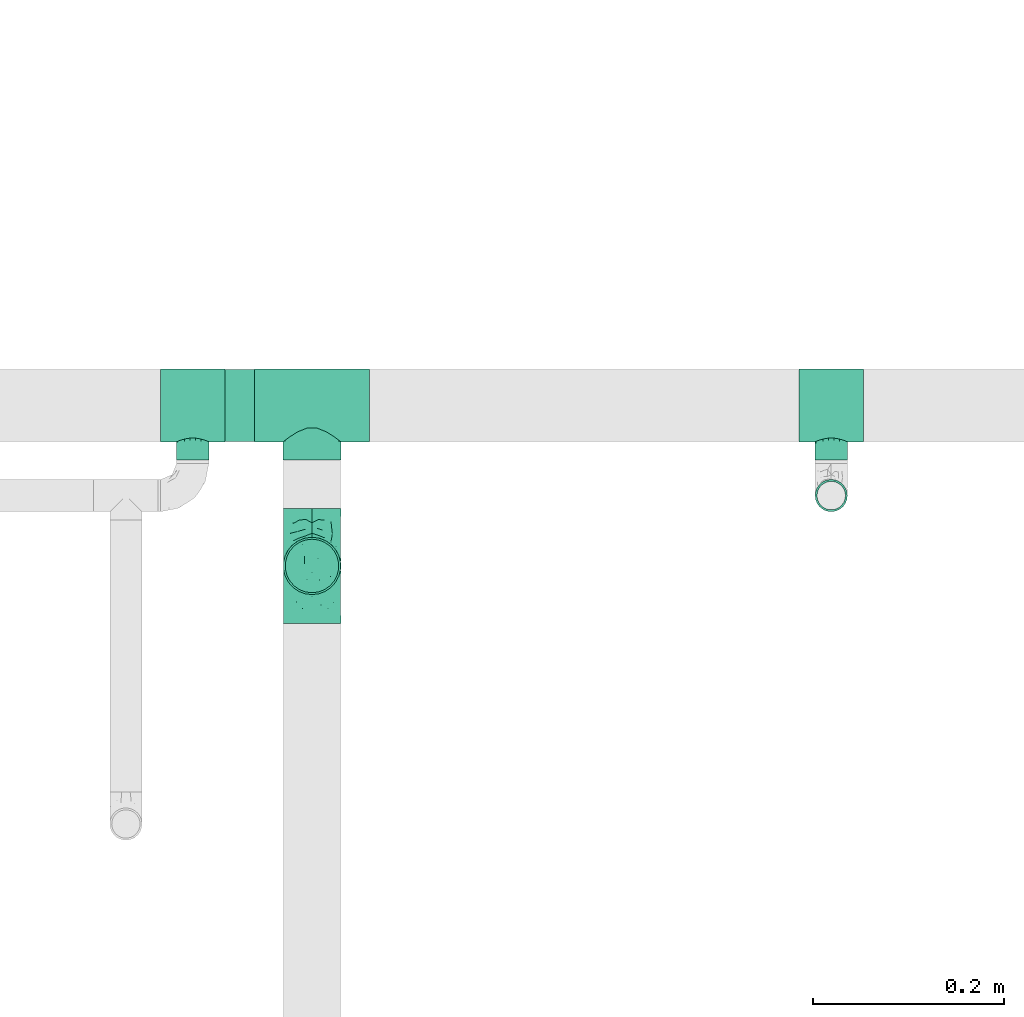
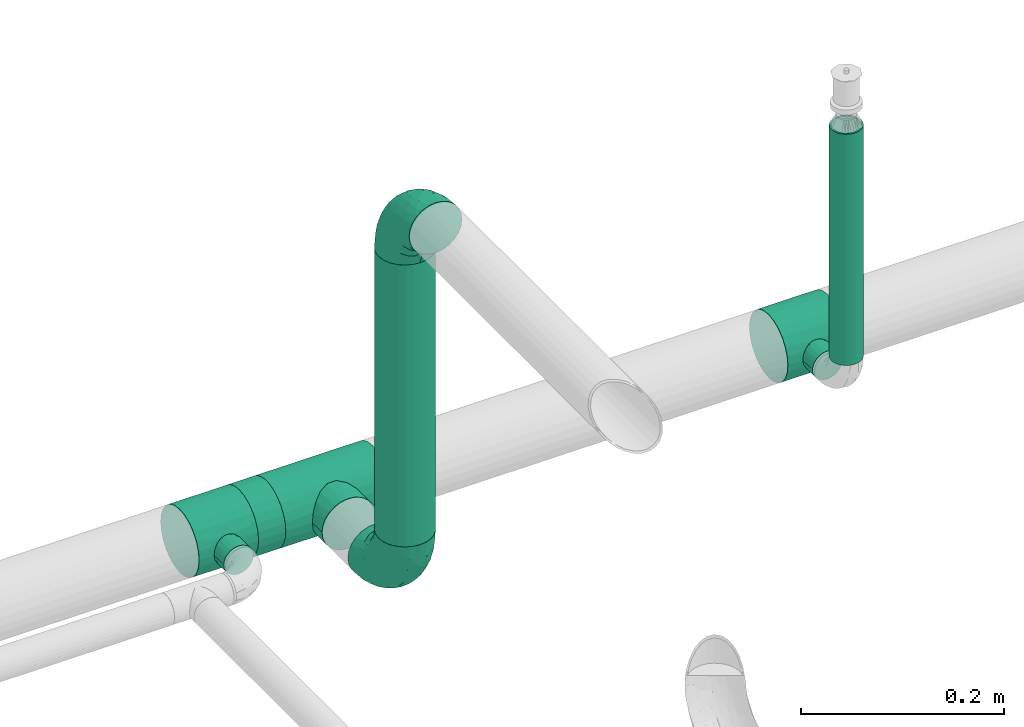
# One storey, part 17 of 157: 5 flow fittings, 3 flow segments.
"""IFC2X3 building model written with IfcOpenShell, lengths in millimetres."""

from ifc_helpers import new_model, entity, si_unit, converted_unit, derived_unit, direction, frame, origin_with_axes, origin_2d_with_axis, place, context, subcontext, project, spatial, hollow_circle, extrude, open_shell, surface_model, source, transform, mapped, type_object, element, save


model = new_model("IFC2X3")

# Units and contexts
model_context = context("Model", 3, precision=0.01, world=frame((0.0, 4.29681676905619e-09, 0.0)), true_north=direction((4.01073788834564e-13, 1.0)))
plan_context = context("Plan", 3, precision=0.01, world=frame((0.0, 4.29681676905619e-09, 0.0)), true_north=direction((4.01073788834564e-13, 1.0)))
body_context = subcontext(model_context, "Body", "Model", "MODEL_VIEW")
ifc_project = project(units=[converted_unit("PLANEANGLEUNIT", "DEGREE", entity("IfcPositiveLengthMeasure", 0.0174532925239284), si_unit("PLANEANGLEUNIT", "RADIAN"), dimensions=[0, 0, 0, 0, 0, 0, 0]), si_unit("AREAUNIT", "SQUARE_METRE"), si_unit("LENGTHUNIT", "METRE", prefix="MILLI"), si_unit("MASSUNIT", "GRAM", prefix="KILO"), si_unit("POWERUNIT", "WATT"), si_unit("PRESSUREUNIT", "PASCAL"), si_unit("FORCEUNIT", "NEWTON", prefix="KILO"), si_unit("ELECTRICCURRENTUNIT", "AMPERE"), si_unit("THERMODYNAMICTEMPERATUREUNIT", "DEGREE_CELSIUS"), si_unit("TIMEUNIT", "SECOND"), si_unit("VOLUMEUNIT", "CUBIC_METRE"), derived_unit("LINEARVELOCITYUNIT", [(si_unit("LENGTHUNIT", "METRE"), 1), (si_unit("TIMEUNIT", "SECOND"), -1)]), derived_unit("VOLUMETRICFLOWRATEUNIT", [(si_unit("VOLUMEUNIT", "CUBIC_METRE"), 1), (si_unit("TIMEUNIT", "SECOND"), -1)]), derived_unit("THERMALTRANSMITTANCEUNIT", [(si_unit("POWERUNIT", "WATT"), 1), (si_unit("THERMODYNAMICTEMPERATUREUNIT", "KELVIN"), -1), (si_unit("AREAUNIT", "SQUARE_METRE"), -1)])], contexts=[model_context, plan_context])

# Site, building, storey
site_placement = place(None, frame((0.0, -4.29681676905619e-09, 0.0), z_axis=(0.0, 0.0, 1.0), x_axis=(1.0, 0.0, 0.0)))
site = spatial("IfcSite", under=ifc_project, at=site_placement, CompositionType="ELEMENT")
building_placement = place(site_placement, frame((0.0, 4.29681676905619e-09, 0.0), z_axis=(0.0, 0.0, 1.0), x_axis=(1.0, 0.0, 0.0)))
building = spatial("IfcBuilding", under=site, at=building_placement, Name="mc-building", CompositionType="ELEMENT")
storey_placement = place(building_placement, frame((0.0, 0.0, 204000.0), z_axis=(0.0, 0.0, 1.0), x_axis=(1.0, 0.0, 0.0)))
storey = spatial("IfcBuildingStorey", under=building, at=storey_placement, Name="Nivå D", CompositionType="ELEMENT", Elevation=204000.0)

# Flow fittings
pipe_fitting_type_1 = type_object("IfcPipeFittingType", Name="magi_pipe_fe_tee_centric_90_NOR", PredefinedType="JUNCTION")
shared_shape_1 = source(origin_with_axes(), body_context, "Body", "SurfaceModel", [
    surface_model("IfcShellBasedSurfaceModel", [(-33.8, 9.86101, -36.80177), (-33.8, 0.0, -38.1), (-33.8, 36.80177, -9.86101), (-33.8, 19.05, -32.99557), (-33.8, 32.99557, -19.05), (-33.8, 26.94077, -26.94077), (-33.8, -38.1, 0.0), (-33.8, -19.05, -32.99557), (-33.8, -26.94077, -26.94077), (-33.8, -9.86101, -36.80177), (-33.8, -32.99557, -19.05), (-33.8, -36.80177, -9.86101), (-33.8, 38.1, 0.0), (-33.8, 32.99557, 19.05), (-33.8, 36.80177, 9.86101), (-33.8, -36.80177, 9.86101), (-33.8, 19.05, 32.99557), (-33.8, 26.94077, 26.94077), (-33.8, 9.86101, 36.80177), (-33.8, 0.0, 38.1), (-33.8, -26.94077, 26.94077), (-33.8, -32.99557, 19.05), (-33.8, -9.86101, 36.80177), (-33.8, -19.05, 32.99557), (33.8, 0.0, -38.1), (33.8, 9.86101, -36.80177), (33.8, 19.05, -32.99557), (33.8, 26.94077, -26.94077), (33.8, 32.99557, -19.05), (33.8, 36.80177, -9.86101), (33.8, -38.1, 0.0), (33.8, -9.86101, -36.80177), (33.8, -26.94077, -26.94077), (33.8, -19.05, -32.99557), (33.8, -32.99557, -19.05), (33.8, -36.80177, -9.86101), (33.8, 36.80177, 9.86101), (33.8, 32.99557, 19.05), (33.8, 19.05, 32.99557), (33.8, 0.0, 38.1), (33.8, 26.94077, 26.94077), (33.8, 9.86101, 36.80177), (33.8, -26.94077, 26.94077), (33.8, -32.99557, 19.05), (33.8, -36.80177, 9.86101), (33.8, -19.05, 32.99557), (33.8, -9.86101, 36.80177), (33.8, 38.1, 0.0), (33.8, -37.45089, 4.9305), (15.86072, -37.65053, 5.83504), (16.9, -38.1, 0.0), (12.92726, -36.51183, 10.88559), (2.96752, -34.27545, 16.63742), (33.8, -34.89867, 14.4555), (8.48894, -35.18611, 14.61328), (-8.4904, -35.18646, 14.61243), (-33.8, -34.89867, 14.4555), (-15.8612, -37.65073, 5.83372), (-33.8, -37.45089, 4.9305), (-16.9, -38.1, 0.0), (-12.9317, -36.51341, 10.88031), (-2.97221, -34.27585, 16.63658), (-33.8, -37.45089, -4.9305), (-15.8612, -37.65073, -5.83372), (15.86072, -37.65053, -5.83504), (33.8, -37.45089, -4.9305), (-12.9317, -36.51341, -10.88031), (-33.8, -34.89867, -14.4555), (-8.4904, -35.18646, -14.61243), (2.96752, -34.27545, -16.63742), (8.48894, -35.18611, -14.61328), (33.8, -34.89867, -14.4555), (12.92726, -36.51183, -10.88559), (-2.97221, -34.27585, -16.63658), (4.37404, -57.15, -16.32415), (-16.9, -57.15, 0.0), (0.0, -57.15, -16.9), (14.63583, -57.15, -8.45), (8.45, -57.15, -14.63583), (16.32415, -57.15, -4.37404), (11.9501, -57.15, -11.9501), (-11.9501, -57.15, -11.9501), (-8.45, -57.15, -14.63583), (-4.37404, -57.15, -16.32415), (-14.63583, -57.15, -8.45), (-16.32415, -57.15, -4.37404), (16.9, -57.15, 0.0), (8.45, -57.15, 14.63583), (16.32415, -57.15, 4.37404), (14.63583, -57.15, 8.45), (-8.45, -57.15, 14.63583), (11.9501, -57.15, 11.9501), (4.37404, -57.15, 16.32415), (-16.32415, -57.15, 4.37404), (-11.9501, -57.15, 11.9501), (-14.63583, -57.15, 8.45), (0.0, -57.15, 16.9), (-4.37404, -57.15, 16.32415), (-16.3806, -37.87537, 2.91686), (-5.7313, -34.73116, 15.62451), (-0.00235, -34.27565, 16.637), (5.72823, -34.73078, 15.62535), (16.38036, -37.87526, 2.91752), (16.38036, -37.87526, -2.91752), (5.72823, -34.73078, -15.62535), (-0.00235, -34.27565, -16.637), (-5.7313, -34.73116, -15.62451), (-16.3806, -37.87537, -2.91686)], [open_shell([[[0, 1, 2]], [[3, 0, 2]], [[2, 4, 5]], [[3, 2, 5]], [[6, 2, 1]], [[7, 8, 9]], [[8, 1, 9]], [[10, 11, 8]], [[6, 8, 11]], [[8, 6, 1]], [[6, 12, 2]], [[13, 14, 12]], [[15, 13, 6]], [[16, 13, 15]], [[17, 13, 16]], [[18, 16, 19]], [[20, 19, 21]], [[16, 15, 21]], [[22, 19, 23]], [[20, 23, 19]], [[21, 19, 16]], [[12, 6, 13]], [[24, 25, 26]], [[24, 26, 27]], [[27, 28, 29]], [[24, 27, 30]], [[30, 27, 29]], [[31, 32, 33]], [[31, 24, 32]], [[34, 30, 35]], [[30, 34, 32]], [[24, 30, 32]], [[29, 36, 30]], [[36, 37, 30]], [[30, 37, 38]], [[38, 39, 30]], [[38, 37, 40]], [[39, 38, 41]], [[30, 42, 43]], [[44, 30, 43]], [[45, 39, 46]], [[45, 42, 30]], [[30, 39, 45]], [[36, 29, 47]], [[48, 44, 49]], [[50, 30, 48]], [[44, 51, 49]], [[43, 42, 52]], [[50, 48, 49]], [[44, 53, 51]], [[52, 54, 43]], [[42, 20, 52]], [[54, 53, 43]], [[55, 21, 56]], [[57, 58, 59]], [[6, 59, 58]], [[57, 60, 15]], [[55, 61, 21]], [[51, 53, 54]], [[15, 60, 56]], [[21, 61, 20]], [[56, 60, 55]], [[61, 52, 20]], [[57, 15, 58]], [[42, 23, 20]], [[19, 46, 39]], [[22, 45, 46]], [[18, 39, 41]], [[37, 36, 14]], [[17, 38, 40]], [[13, 40, 37]], [[41, 38, 16]], [[12, 36, 47]], [[23, 45, 22]], [[22, 46, 19]], [[18, 19, 39]], [[41, 16, 18]], [[16, 38, 17]], [[13, 17, 40]], [[14, 13, 37]], [[36, 12, 14]], [[45, 23, 42]], [[12, 47, 29]], [[29, 28, 2]], [[59, 62, 63]], [[27, 4, 28]], [[9, 24, 31]], [[0, 26, 25]], [[64, 35, 65]], [[24, 1, 25]], [[31, 33, 7]], [[27, 26, 5]], [[66, 67, 68]], [[4, 2, 28]], [[12, 29, 2]], [[27, 5, 4]], [[3, 26, 0]], [[26, 3, 5]], [[0, 25, 1]], [[9, 1, 24]], [[31, 7, 9]], [[33, 8, 7]], [[32, 34, 69]], [[70, 34, 71]], [[70, 69, 34]], [[35, 72, 71]], [[32, 69, 8]], [[30, 50, 65]], [[64, 72, 35]], [[64, 65, 50]], [[72, 70, 71]], [[73, 68, 10]], [[10, 8, 73]], [[68, 67, 10]], [[73, 8, 69]], [[66, 63, 11]], [[63, 62, 11]], [[62, 59, 6]], [[11, 67, 66]], [[32, 8, 33]], [[74, 75, 76]], [[77, 74, 78]], [[77, 79, 74]], [[77, 78, 80]], [[75, 74, 79]], [[76, 81, 82]], [[82, 83, 76]], [[84, 75, 85]], [[81, 76, 84]], [[75, 84, 76]], [[79, 86, 75]], [[87, 86, 88]], [[87, 88, 89]], [[90, 75, 87]], [[87, 89, 91]], [[90, 87, 92]], [[93, 94, 95]], [[94, 93, 90]], [[90, 96, 97]], [[93, 75, 90]], [[92, 96, 90]], [[87, 75, 86]], [[93, 98, 75]], [[60, 95, 94]], [[93, 95, 57]], [[94, 90, 55]], [[98, 59, 75]], [[57, 95, 60]], [[97, 61, 99]], [[55, 60, 94]], [[96, 52, 100]], [[87, 101, 92]], [[99, 90, 97]], [[99, 55, 90]], [[93, 57, 98]], [[92, 52, 96]], [[49, 89, 88]], [[102, 86, 50]], [[102, 49, 88]], [[91, 89, 51]], [[96, 61, 97]], [[101, 52, 92]], [[87, 54, 101]], [[87, 91, 54]], [[54, 91, 51]], [[51, 89, 49]], [[86, 102, 88]], [[100, 61, 96]], [[79, 103, 86]], [[72, 77, 80]], [[79, 77, 64]], [[80, 78, 70]], [[103, 50, 86]], [[64, 77, 72]], [[74, 69, 104]], [[70, 72, 80]], [[76, 73, 105]], [[82, 106, 83]], [[107, 75, 59]], [[104, 78, 74]], [[104, 70, 78]], [[68, 82, 81]], [[79, 64, 103]], [[63, 84, 85]], [[107, 63, 85]], [[84, 66, 81]], [[76, 69, 74]], [[83, 106, 73]], [[73, 76, 83]], [[68, 106, 82]], [[68, 81, 66]], [[66, 84, 63]], [[75, 107, 85]], [[105, 69, 76]]])]),
])
for number, where, z_axis, x_axis, name in (
    (1, (524570.18066, 414039.35389, 2690.0), (0.0, 0.0, -1.0), (-1.0, 0.0, 0.0), "magi_pipe_fe_tee_centric_90_NOR"),
    (2, (525240.35, 414039.35389, 2690.0), (0.0, 0.0, -1.0), (-1.0, 0.0, 0.0), "magi_pipe_fe_tee_centric_90_NOR"),
):
    element("IfcFlowFitting", number, at=place(storey_placement, frame(where, z_axis=z_axis, x_axis=x_axis)), inside=storey, type_object=pipe_fitting_type_1, Name=name, context=body_context, shape_type="MappedRepresentation", body=[
        mapped(shared_shape_1, transform((0.0, 0.0, 0.0), scale=1.0)),
    ])
pipe_fitting_type_2 = type_object("IfcPipeFittingType", Name="magi_pipe_fe_elbow_short_001", PredefinedType="BEND")
shared_shape_2 = source(origin_with_axes(), body_context, "Body", "SurfaceModel", [
    surface_model("IfcShellBasedSurfaceModel", [(-60.4, 15.1, -26.15397), (-60.4, 7.81634, -29.17096), (-60.4, 0.0, -30.2), (-60.4, -21.35462, -21.35462), (-60.4, 26.15397, -15.1), (-60.4, 21.35462, -21.35462), (-60.4, 29.17096, -7.81634), (-60.4, -15.1, -26.15397), (-60.4, -7.81634, -29.17096), (-60.4, -26.15397, -15.1), (-60.4, -29.17096, -7.81634), (-60.4, -30.2, 0.0), (-60.4, -29.17096, 7.81634), (-60.4, 29.17096, 7.81634), (-60.4, -21.35462, 21.35462), (-60.4, 26.15397, 15.1), (-60.4, 21.35462, 21.35462), (-60.4, 7.81634, 29.17096), (-60.4, 15.1, 26.15397), (-60.4, -26.15397, 15.1), (-60.4, -7.81634, 29.17096), (-60.4, 0.0, 30.2), (-60.4, -15.1, 26.15397), (-60.4, 30.2, 0.0), (0.0, 60.4, -30.2), (-7.81634, 60.4, -29.17096), (-15.1, 60.4, -26.15397), (-26.15397, 60.4, -15.1), (-29.17096, 60.4, -7.81634), (-21.35462, 60.4, -21.35462), (29.17096, 60.4, -7.81634), (7.81634, 60.4, -29.17096), (21.35462, 60.4, -21.35462), (15.1, 60.4, -26.15397), (26.15397, 60.4, -15.1), (29.17096, 60.4, 7.81634), (30.2, 60.4, 0.0), (-29.17096, 60.4, 7.81634), (21.35462, 60.4, 21.35462), (-21.35462, 60.4, 21.35462), (-26.15397, 60.4, 15.1), (-15.1, 60.4, 26.15397), (-7.81634, 60.4, 29.17096), (26.15397, 60.4, 15.1), (15.1, 60.4, 26.15397), (0.0, 60.4, 30.2), (7.81634, 60.4, 29.17096), (-30.2, 60.4, 0.0), (-40.79975, -26.48639, 9.49143), (-44.2927, -23.46036, 16.95222), (-32.40306, -25.76572, 0.0), (-45.54716, -27.84754, 0.0), (-7.73382, -10.42985, 11.64553), (-2.102, -8.06735, 6.35117), (1.74449, -1.74448, 12.51332), (-46.13593, -4.00068, 29.68351), (-42.2898, 4.62925, 30.14853), (10.31662, 7.37496, 11.34434), (18.44156, 24.57514, 15.02148), (7.07276, 10.95732, 19.27498), (-30.06693, -0.27102, 29.27145), (-44.17726, -11.39441, 27.16031), (-23.4551, -7.13383, 25.24246), (-38.74025, -17.25266, 22.43475), (-27.059, -23.14697, 6.2131), (-19.77486, -19.33133, 0.0), (-10.95732, -7.07276, 19.27498), (-5.39458, 5.39458, 24.69106), (-29.52069, 48.20084, 13.12597), (-25.22813, 47.01796, 19.8404), (-11.27311, 52.093, 28.2877), (-4.13904, 45.17494, 30.12582), (-46.55352, 11.8443, 28.52822), (-7.88305, 20.22717, 29.65331), (-15.00576, 5.54025, 28.20072), (-3.0852, 16.31623, 27.75343), (-52.24998, 18.2886, 24.60768), (-10.49591, 29.69865, 30.14582), (-22.36958, 22.36958, 29.4662), (-17.98262, 13.19715, 30.04443), (-47.74519, 32.16745, 6.63994), (-48.21585, 29.51581, 13.12396), (-37.49729, 37.49729, 11.28901), (-47.20967, 25.1754, 19.81929), (17.25266, 38.74025, 22.43475), (-31.32046, 40.03273, 17.09289), (11.39441, 44.17725, 27.16031), (23.46036, 44.2927, 16.95222), (26.48639, 40.79975, 9.49143), (-7.14666, -12.89694, 0.0), (-14.66463, -16.61192, 7.82462), (4.00068, 46.13593, 29.68351), (-33.18602, 12.93608, 29.65955), (-29.63414, 7.40029, 30.18711), (19.33133, 19.77486, 0.0), (23.14697, 27.059, 6.2131), (16.61192, 14.66463, 7.82462), (27.84754, 45.54716, 0.0), (-32.10611, 20.49149, 27.93323), (-24.57514, -18.44156, 15.02148), (-21.89487, 39.03366, 25.38224), (-18.45005, 50.6405, 24.73297), (-31.78933, 48.71949, 6.47886), (-37.84917, 39.61073, 5.315), (13.91334, 24.32737, 20.46816), (7.13383, 23.4551, 25.24246), (-34.24603, 45.3, 0.0), (-27.95749, 31.89166, 24.81537), (-41.58677, 20.50028, 25.43151), (-0.46157, 0.46157, 17.84239), (-17.23338, 31.26213, 29.03145), (-24.05994, 29.23812, 27.47858), (-13.06094, 40.92174, 28.76128), (-31.83392, 33.72702, 21.39203), (-38.78737, 32.45032, 16.84022), (0.27102, 30.06693, 29.27145), (-24.21469, -13.23741, 21.05734), (8.23548, 2.19333, 6.02161), (25.76572, 32.40306, 0.0), (12.89694, 7.14666, 0.0), (-45.3, 34.24603, 0.0), (2.87514, -2.87514, 0.0), (-44.53432, 26.00869, -20.11577), (-48.18822, 29.5248, -13.12766), (-24.67192, -7.62159, -25.33714), (-26.22398, -0.37671, -28.72374), (-12.13397, -0.50536, -24.74577), (-47.80891, 3.81859, -30.10171), (-44.05719, -27.03585, -9.84546), (-37.94552, -22.39569, -16.35738), (-28.81663, -22.64668, -10.132), (-43.93799, 12.32789, -28.63778), (-33.27, 7.1392, -30.19348), (-26.0087, 44.53432, -20.11577), (-48.89164, 31.68872, -6.60822), (-18.95522, 47.41145, -24.9828), (-12.32789, 43.93799, -28.63778), (-38.42778, 38.42778, -7.21049), (18.04263, 43.69152, -22.80146), (10.42233, 38.24532, -26.85918), (11.90576, 51.00473, -27.48545), (-5.88381, -10.62327, -7.95335), (-5.9694, -7.83116, -13.76182), (3.24899, -2.56331, -7.96861), (-17.62229, 16.32998, -30.18286), (-28.62959, 17.86952, -29.30113), (-47.41145, 18.95522, -24.98279), (-50.84455, -24.04089, -17.54629), (-29.38053, 34.30665, -22.74674), (-27.91099, 27.91099, -26.51666), (-36.91219, 25.51094, -23.99233), (2.63361, -0.55507, -12.94367), (-43.69152, -18.04263, -22.80146), (22.39569, 37.94552, -16.35738), (27.03585, 44.05719, -9.84546), (22.64668, 28.81663, -10.132), (-51.00473, -11.90576, -27.48545), (3.80785, 44.49426, -29.64782), (-19.0921, -14.69952, -16.47487), (-22.5489, -12.31934, -21.1263), (-10.94772, -7.46239, -18.88204), (-32.95885, -13.78948, -23.71249), (-38.24532, -10.42233, -26.85918), (-44.49427, -3.80785, -29.64782), (-22.6301, 37.15314, -25.58239), (-31.68872, 48.89164, -6.60822), (-3.8186, 47.80891, -30.10171), (-10.66133, 10.66133, -28.51691), (0.37671, 26.22398, -28.72374), (1.27136, 14.18619, -25.18541), (-29.5248, 48.18821, -13.12766), (-36.27113, 36.27113, -14.88553), (24.04089, 50.84455, -17.54629), (17.50188, 24.2636, -16.21902), (9.73525, 11.44907, -16.75087), (12.31934, 22.5489, -21.1263), (6.24176, 25.78208, -26.38266), (-7.1392, 33.27, -30.19348), (-36.7166, 19.4356, -27.21946), (-18.00754, 29.38864, -29.15505), (-0.28629, 0.28629, -17.49884), (-13.98848, -16.88492, -5.19509), (15.48569, 15.00432, -11.24742), (16.88492, 13.98848, -5.19509), (3.55782, 9.20508, -21.18402), (-15.00432, -15.48569, -11.24742)], [open_shell([[[0, 1, 2]], [[0, 2, 3]], [[4, 0, 3]], [[5, 0, 4]], [[6, 4, 3]], [[7, 3, 8]], [[3, 2, 8]], [[9, 10, 3]], [[3, 10, 6]], [[11, 12, 10]], [[13, 6, 10]], [[13, 10, 14]], [[15, 13, 16]], [[17, 18, 16]], [[13, 17, 16]], [[17, 13, 14]], [[19, 14, 12]], [[12, 14, 10]], [[20, 21, 22]], [[17, 14, 22]], [[17, 22, 21]], [[13, 23, 6]], [[24, 25, 26]], [[24, 26, 27]], [[27, 28, 24]], [[27, 26, 29]], [[24, 28, 30]], [[31, 32, 33]], [[31, 24, 32]], [[32, 30, 34]], [[24, 30, 32]], [[30, 35, 36]], [[30, 28, 37]], [[38, 30, 37]], [[39, 37, 40]], [[39, 41, 42]], [[39, 42, 37]], [[38, 37, 42]], [[35, 38, 43]], [[30, 38, 35]], [[44, 45, 46]], [[44, 38, 42]], [[45, 44, 42]], [[28, 47, 37]], [[48, 49, 19]], [[50, 48, 51]], [[52, 53, 54]], [[12, 48, 19]], [[12, 51, 48]], [[21, 55, 56]], [[19, 49, 14]], [[57, 58, 59]], [[60, 61, 62]], [[63, 22, 14]], [[63, 61, 22]], [[64, 50, 65]], [[62, 66, 67]], [[40, 68, 69]], [[42, 70, 71]], [[17, 72, 18]], [[73, 74, 75]], [[18, 76, 16]], [[20, 55, 21]], [[77, 78, 79]], [[80, 81, 82]], [[15, 83, 81]], [[84, 38, 44]], [[23, 13, 80]], [[13, 15, 81]], [[68, 85, 69]], [[83, 15, 16]], [[21, 56, 17]], [[44, 86, 84]], [[16, 76, 83]], [[87, 58, 88]], [[40, 37, 68]], [[89, 90, 65]], [[45, 91, 46]], [[65, 90, 64]], [[45, 42, 71]], [[92, 93, 79]], [[88, 35, 43]], [[43, 38, 87]], [[87, 88, 43]], [[94, 95, 96]], [[88, 97, 35]], [[98, 72, 92]], [[49, 99, 63]], [[69, 100, 101]], [[82, 102, 103]], [[104, 105, 59]], [[106, 102, 47]], [[98, 107, 108]], [[102, 82, 68]], [[86, 44, 46]], [[69, 39, 40]], [[109, 54, 57]], [[110, 100, 111]], [[22, 61, 20]], [[101, 41, 39]], [[70, 42, 41]], [[112, 77, 71]], [[84, 86, 105]], [[96, 95, 58]], [[100, 69, 113]], [[72, 17, 56]], [[108, 113, 83]], [[81, 114, 82]], [[112, 110, 77]], [[91, 71, 115]], [[62, 61, 63]], [[55, 61, 60]], [[116, 99, 66]], [[74, 62, 67]], [[91, 86, 46]], [[105, 86, 115]], [[75, 105, 115]], [[109, 67, 66]], [[59, 105, 67]], [[48, 64, 99]], [[99, 49, 48]], [[63, 14, 49]], [[38, 84, 87]], [[58, 87, 84]], [[92, 72, 56]], [[76, 72, 108]], [[102, 68, 37]], [[82, 114, 85]], [[98, 111, 107]], [[112, 70, 101]], [[114, 83, 113]], [[82, 103, 80]], [[92, 79, 78]], [[115, 71, 77]], [[74, 79, 60]], [[77, 79, 73]], [[71, 91, 45]], [[86, 91, 115]], [[61, 55, 20]], [[56, 55, 60]], [[57, 54, 117]], [[104, 59, 58]], [[116, 66, 62]], [[52, 99, 90]], [[12, 11, 51]], [[97, 88, 118]], [[97, 36, 35]], [[53, 90, 89]], [[90, 53, 52]], [[94, 96, 119]], [[88, 95, 118]], [[117, 54, 53]], [[92, 56, 93]], [[98, 92, 78]], [[111, 98, 78]], [[72, 98, 108]], [[110, 111, 78]], [[107, 111, 100]], [[47, 102, 37]], [[102, 106, 103]], [[106, 120, 103]], [[103, 120, 80]], [[23, 80, 120]], [[13, 81, 80]], [[56, 60, 93]], [[60, 79, 93]], [[117, 121, 119]], [[121, 117, 53]], [[53, 89, 121]], [[119, 96, 117]], [[117, 96, 57]], [[77, 110, 78]], [[100, 110, 112]], [[83, 114, 81]], [[85, 114, 113]], [[69, 85, 113]], [[82, 85, 68]], [[109, 52, 54]], [[99, 52, 66]], [[69, 101, 39]], [[112, 101, 100]], [[100, 113, 107]], [[108, 107, 113]], [[62, 74, 60]], [[75, 74, 67]], [[105, 75, 67]], [[73, 75, 115]], [[77, 73, 115]], [[74, 73, 79]], [[99, 64, 90]], [[50, 64, 48]], [[118, 95, 94]], [[58, 95, 88]], [[58, 57, 96]], [[109, 57, 59]], [[72, 76, 18]], [[83, 76, 108]], [[101, 70, 41]], [[71, 70, 112]], [[58, 84, 104]], [[105, 104, 84]], [[67, 109, 59]], [[52, 109, 66]], [[62, 63, 116]], [[99, 116, 63]], [[122, 4, 123]], [[124, 125, 126]], [[2, 1, 127]], [[128, 129, 130]], [[127, 131, 132]], [[27, 29, 133]], [[120, 134, 23]], [[135, 26, 136]], [[123, 134, 137]], [[138, 139, 140]], [[122, 5, 4]], [[141, 142, 143]], [[144, 132, 145]], [[131, 0, 146]], [[128, 9, 147]], [[148, 149, 150]], [[128, 51, 10]], [[142, 151, 143]], [[152, 3, 7]], [[153, 154, 155]], [[156, 152, 7]], [[31, 157, 24]], [[158, 159, 160]], [[147, 9, 3]], [[129, 152, 161]], [[156, 7, 8]], [[162, 163, 125]], [[154, 34, 30]], [[120, 106, 137]], [[149, 148, 164]], [[47, 28, 165]], [[163, 8, 2]], [[4, 6, 123]], [[25, 166, 136]], [[167, 168, 169]], [[170, 133, 171]], [[25, 24, 166]], [[33, 32, 138]], [[157, 31, 140]], [[28, 27, 170]], [[32, 34, 172]], [[26, 135, 29]], [[132, 131, 145]], [[31, 33, 140]], [[173, 174, 175]], [[169, 168, 176]], [[25, 136, 26]], [[175, 138, 173]], [[168, 177, 157]], [[163, 162, 156]], [[153, 172, 154]], [[9, 128, 10]], [[154, 97, 118]], [[131, 178, 145]], [[0, 5, 146]], [[175, 139, 138]], [[155, 118, 94]], [[131, 1, 0]], [[146, 178, 131]], [[170, 137, 165]], [[149, 179, 145]], [[171, 133, 148]], [[160, 180, 142]], [[65, 181, 89]], [[170, 165, 28]], [[137, 171, 123]], [[172, 138, 32]], [[138, 153, 173]], [[168, 157, 139]], [[166, 157, 177]], [[176, 175, 169]], [[168, 167, 144]], [[154, 30, 97]], [[155, 182, 173]], [[162, 124, 161]], [[147, 152, 129]], [[127, 163, 2]], [[132, 144, 125]], [[132, 125, 163]], [[125, 167, 126]], [[129, 158, 130]], [[30, 36, 97]], [[143, 182, 183]], [[169, 126, 167]], [[5, 122, 146]], [[178, 150, 149]], [[136, 179, 164]], [[133, 29, 135]], [[123, 6, 134]], [[122, 123, 171]], [[133, 170, 27]], [[137, 170, 171]], [[184, 175, 174]], [[180, 160, 126]], [[126, 169, 184]], [[126, 159, 124]], [[51, 128, 50]], [[51, 11, 10]], [[131, 127, 1]], [[163, 127, 132]], [[157, 166, 24]], [[136, 166, 177]], [[164, 179, 149]], [[144, 167, 125]], [[179, 144, 145]], [[168, 144, 177]], [[136, 177, 179]], [[144, 179, 177]], [[141, 121, 89]], [[89, 181, 141]], [[154, 118, 155]], [[183, 155, 94]], [[143, 183, 119]], [[119, 183, 94]], [[155, 183, 182]], [[181, 130, 185]], [[50, 128, 130]], [[130, 181, 65]], [[50, 130, 65]], [[141, 181, 185]], [[142, 141, 185]], [[143, 121, 141]], [[158, 160, 142]], [[142, 180, 151]], [[158, 142, 185]], [[126, 160, 159]], [[130, 158, 185]], [[129, 159, 158]], [[23, 134, 6]], [[120, 137, 134]], [[137, 106, 165]], [[47, 165, 106]], [[174, 151, 180]], [[182, 143, 151]], [[150, 146, 122]], [[149, 145, 178]], [[146, 150, 178]], [[122, 171, 148]], [[148, 150, 122]], [[164, 133, 135]], [[133, 164, 148]], [[164, 135, 136]], [[138, 140, 33]], [[157, 140, 139]], [[154, 172, 34]], [[138, 172, 153]], [[163, 156, 8]], [[152, 156, 162]], [[152, 147, 3]], [[128, 147, 129]], [[155, 173, 153]], [[174, 173, 182]], [[151, 174, 182]], [[174, 180, 184]], [[126, 184, 180]], [[175, 184, 169]], [[168, 139, 176]], [[175, 176, 139]], [[161, 124, 159]], [[125, 124, 162]], [[129, 161, 159]], [[162, 161, 152]], [[143, 119, 121]]])]),
])
for number, where, z_axis, x_axis, name in (
    (3, (524695.35, 413870.88552, 3150.0), (1.0, 0.0, 0.0), (0.0, 0.0, 1.0), "magi_pipe_fe_elbow_short_001"),
    (4, (524695.35, 413870.88552, 2690.0), (1.0, 0.0, 0.0), (0.0, 0.0, -1.0), "magi_pipe_fe_elbow_short_001"),
):
    element("IfcFlowFitting", number, at=place(storey_placement, frame(where, z_axis=z_axis, x_axis=x_axis)), inside=storey, type_object=pipe_fitting_type_2, Name=name, context=body_context, shape_type="MappedRepresentation", body=[
        mapped(shared_shape_2, transform((0.0, 0.0, 0.0), scale=1.0)),
    ])
shared_shape_3 = source(origin_with_axes(), body_context, "Body", "SurfaceModel", [
    surface_model("IfcShellBasedSurfaceModel", [(-60.4, 9.86101, -36.80177), (-60.4, 0.0, -38.1), (-60.4, 36.80177, -9.86101), (-60.4, 19.05, -32.99557), (-60.4, 32.99557, -19.05), (-60.4, 26.94077, -26.94077), (-60.4, -38.1, 0.0), (-60.4, -19.05, -32.99557), (-60.4, -26.94077, -26.94077), (-60.4, -9.86101, -36.80177), (-60.4, -32.99557, -19.05), (-60.4, -36.80177, -9.86101), (-60.4, 38.1, 0.0), (-60.4, 32.99557, 19.05), (-60.4, 36.80177, 9.86101), (-60.4, -36.80177, 9.86101), (-60.4, 19.05, 32.99557), (-60.4, 26.94077, 26.94077), (-60.4, 9.86101, 36.80177), (-60.4, 0.0, 38.1), (-60.4, -26.94077, 26.94077), (-60.4, -32.99557, 19.05), (-60.4, -9.86101, 36.80177), (-60.4, -19.05, 32.99557), (60.4, 0.0, -38.1), (60.4, 9.86101, -36.80177), (60.4, 19.05, -32.99557), (60.4, 26.94077, -26.94077), (60.4, 32.99557, -19.05), (60.4, 36.80177, -9.86101), (60.4, -38.1, 0.0), (60.4, -9.86101, -36.80177), (60.4, -26.94077, -26.94077), (60.4, -19.05, -32.99557), (60.4, -32.99557, -19.05), (60.4, -36.80177, -9.86101), (60.4, 36.80177, 9.86101), (60.4, 32.99557, 19.05), (60.4, 19.05, 32.99557), (60.4, 0.0, 38.1), (60.4, 26.94077, 26.94077), (60.4, 9.86101, 36.80177), (60.4, -26.94077, 26.94077), (60.4, -32.99557, 19.05), (60.4, -36.80177, 9.86101), (60.4, -19.05, 32.99557), (60.4, -9.86101, 36.80177), (60.4, 38.1, 0.0), (30.2, -38.1, 0.0), (28.21297, -36.54506, 10.7735), (22.90358, -32.62122, 19.68415), (15.23524, -27.77917, 26.07542), (5.49864, -23.87059, 29.6952), (-30.2, -38.1, 0.0), (-28.21409, -36.54593, 10.77057), (-15.2375, -27.78041, 26.0741), (-5.50829, -23.87281, 29.69341), (-22.9083, -32.62453, 19.67866), (5.49864, -23.87059, -29.6952), (22.90358, -32.62122, -19.68415), (15.23524, -27.77917, -26.07542), (28.21297, -36.54506, -10.7735), (-5.50829, -23.87281, -29.69341), (-15.2375, -27.78041, -26.0741), (-22.9083, -32.62453, -19.67866), (-28.21409, -36.54593, -10.77057), (-21.35462, -57.15, -21.35462), (0.0, -57.15, -30.2), (7.81634, -57.15, -29.17096), (15.1, -57.15, -26.15397), (-30.2, -57.15, 0.0), (26.15397, -57.15, -15.1), (21.35462, -57.15, -21.35462), (26.15397, -57.15, 15.1), (-7.81634, -57.15, -29.17096), (-15.1, -57.15, -26.15397), (-29.17096, -57.15, -7.81634), (-26.15397, -57.15, -15.1), (29.17096, -57.15, -7.81634), (30.2, -57.15, 0.0), (29.17096, -57.15, 7.81634), (7.81634, -57.15, 29.17096), (15.1, -57.15, 26.15397), (21.35462, -57.15, 21.35462), (-21.35462, -57.15, 21.35462), (-26.15397, -57.15, 15.1), (-29.17096, -57.15, 7.81634), (-15.1, -57.15, 26.15397), (0.0, -57.15, 30.2), (-7.81634, -57.15, 29.17096), (-29.20704, -37.32296, 5.38529), (29.20648, -37.32253, 5.38675), (-0.00482, -23.8717, 29.69431), (29.20648, -37.32253, -5.38675), (-29.20704, -37.32296, -5.38529), (-0.00482, -23.8717, -29.69431)], [open_shell([[[0, 1, 2]], [[3, 0, 2]], [[2, 4, 5]], [[3, 2, 5]], [[6, 2, 1]], [[7, 8, 9]], [[8, 1, 9]], [[10, 11, 8]], [[6, 8, 11]], [[8, 6, 1]], [[6, 12, 2]], [[13, 14, 12]], [[15, 13, 6]], [[16, 13, 15]], [[17, 13, 16]], [[18, 16, 19]], [[20, 19, 21]], [[16, 15, 21]], [[22, 19, 23]], [[20, 23, 19]], [[21, 19, 16]], [[12, 6, 13]], [[24, 25, 26]], [[24, 26, 27]], [[27, 28, 29]], [[24, 27, 30]], [[30, 27, 29]], [[31, 32, 33]], [[31, 24, 32]], [[34, 30, 35]], [[30, 34, 32]], [[24, 30, 32]], [[29, 36, 30]], [[36, 37, 30]], [[30, 37, 38]], [[38, 39, 30]], [[38, 37, 40]], [[39, 38, 41]], [[30, 42, 43]], [[44, 30, 43]], [[45, 39, 46]], [[45, 42, 30]], [[30, 39, 45]], [[36, 29, 47]], [[30, 44, 48]], [[49, 48, 44]], [[44, 43, 49]], [[43, 42, 50]], [[51, 50, 42]], [[52, 51, 42]], [[42, 45, 52]], [[43, 50, 49]], [[53, 54, 15]], [[15, 6, 53]], [[54, 21, 15]], [[55, 56, 20]], [[21, 57, 20]], [[57, 21, 54]], [[20, 57, 55]], [[56, 23, 20]], [[52, 23, 56]], [[19, 46, 39]], [[22, 45, 46]], [[18, 39, 41]], [[37, 36, 14]], [[17, 38, 40]], [[13, 40, 37]], [[41, 38, 16]], [[12, 36, 47]], [[23, 45, 22]], [[22, 46, 19]], [[18, 19, 39]], [[41, 16, 18]], [[16, 38, 17]], [[13, 17, 40]], [[14, 13, 37]], [[36, 12, 14]], [[45, 23, 52]], [[29, 28, 4]], [[28, 27, 5]], [[47, 29, 12]], [[24, 31, 9]], [[25, 0, 26]], [[1, 25, 24]], [[26, 3, 27]], [[7, 31, 33]], [[2, 12, 29]], [[28, 5, 4]], [[2, 29, 4]], [[27, 3, 5]], [[3, 26, 0]], [[1, 0, 25]], [[9, 1, 24]], [[31, 7, 9]], [[33, 58, 7]], [[32, 59, 60]], [[59, 32, 34]], [[60, 58, 32]], [[32, 58, 33]], [[35, 30, 48]], [[35, 61, 34]], [[61, 35, 48]], [[34, 61, 59]], [[62, 63, 8]], [[8, 64, 10]], [[64, 8, 63]], [[62, 8, 7]], [[65, 53, 11]], [[65, 11, 10]], [[11, 53, 6]], [[65, 10, 64]], [[58, 62, 7]], [[66, 67, 68]], [[69, 66, 68]], [[70, 69, 71]], [[71, 69, 72]], [[73, 70, 71]], [[74, 66, 75]], [[74, 67, 66]], [[66, 76, 77]], [[76, 66, 70]], [[69, 70, 66]], [[71, 78, 79]], [[79, 80, 73]], [[81, 70, 73]], [[82, 81, 73]], [[82, 73, 83]], [[70, 81, 84]], [[70, 85, 86]], [[84, 85, 70]], [[87, 88, 89]], [[88, 87, 84]], [[81, 88, 84]], [[73, 71, 79]], [[86, 90, 70]], [[57, 85, 84]], [[91, 49, 80]], [[86, 85, 54]], [[84, 87, 55]], [[90, 53, 70]], [[54, 85, 57]], [[55, 89, 56]], [[55, 57, 84]], [[88, 52, 92]], [[55, 87, 89]], [[88, 56, 89]], [[51, 81, 82]], [[86, 54, 90]], [[83, 51, 82]], [[49, 73, 80]], [[83, 73, 50]], [[52, 88, 81]], [[81, 51, 52]], [[92, 56, 88]], [[51, 83, 50]], [[50, 73, 49]], [[79, 91, 80]], [[91, 79, 48]], [[78, 93, 79]], [[59, 71, 72]], [[94, 65, 76]], [[78, 71, 61]], [[72, 69, 60]], [[93, 48, 79]], [[61, 71, 59]], [[60, 68, 58]], [[60, 59, 72]], [[67, 62, 95]], [[60, 69, 68]], [[67, 58, 68]], [[63, 74, 75]], [[78, 61, 93]], [[66, 63, 75]], [[65, 77, 76]], [[66, 77, 64]], [[62, 67, 74]], [[74, 63, 62]], [[95, 58, 67]], [[63, 66, 64]], [[64, 77, 65]], [[70, 94, 76]], [[94, 70, 53]]])]),
])
flow_fitting_placement = place(storey_placement, frame((524695.35, 414039.35389, 2690.0), z_axis=(0.0, 0.0, -1.0), x_axis=(-1.0, 0.0, 0.0)))
element("IfcFlowFitting", 5, at=flow_fitting_placement, inside=storey, type_object=pipe_fitting_type_1, Name="magi_pipe_fe_tee_centric_90_NOR", context=body_context, shape_type="MappedRepresentation", body=[
    mapped(shared_shape_3, transform((0.0, 0.0, 0.0), scale=1.0)),
])

# Flow segments
pipe_segment_type = type_object("IfcPipeSegmentType", Name="Stålrør normaltykke", PredefinedType="RIGIDSEGMENT")
shared_shape_4 = source(origin_with_axes(), body_context, "Body", "SweptSolid", [
    extrude(hollow_circle(Radius=16.9, WallThickness=2.0, at=origin_2d_with_axis()), frame((0.0, 0.0, 0.0), z_axis=(1.0, 0.0, 0.0), x_axis=(0.0, 1.0, 0.0)), (0.0, 0.0, 1.0), 278.3),
])
flow_segment_1_placement = place(storey_placement, frame((525240.35, 413944.735, 3002.14799999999), z_axis=(0.0, -1.0, 0.0), x_axis=(0.0, 0.0, -1.0)))
element("IfcFlowSegment", 6, at=flow_segment_1_placement, inside=storey, type_object=pipe_segment_type, Name="Stålrør normaltykke", context=body_context, shape_type="MappedRepresentation", body=[
    mapped(shared_shape_4, transform((0.0, 0.0, 0.0), scale=1.0)),
])
shared_shape_5 = source(origin_with_axes(), body_context, "Body", "SweptSolid", [
    extrude(hollow_circle(Radius=30.1, WallThickness=2.0, at=origin_2d_with_axis()), frame((0.0, 0.0, 0.0), z_axis=(1.0, 0.0, 0.0), x_axis=(0.0, 1.0, 0.0)), (0.0, 0.0, 1.0), 339.2),
])
flow_segment_2_placement = place(storey_placement, frame((524695.35, 413870.88552, 2750.39999999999), z_axis=(1.0, 0.0, 0.0), x_axis=(0.0, 0.0, 1.0)))
element("IfcFlowSegment", 7, at=flow_segment_2_placement, inside=storey, type_object=pipe_segment_type, Name="Stålrør normaltykke", context=body_context, shape_type="MappedRepresentation", body=[
    mapped(shared_shape_5, transform((0.0, 0.0, 0.0), scale=1.0)),
])
shared_shape_6 = source(origin_with_axes(), body_context, "Body", "SweptSolid", [
    extrude(hollow_circle(Radius=38.0, WallThickness=2.0, at=origin_2d_with_axis()), frame((0.0, 0.0, 0.0), z_axis=(1.0, 0.0, 0.0), x_axis=(0.0, 1.0, 0.0)), (0.0, 0.0, 1.0), 31.0),
])
flow_segment_3_placement = place(storey_placement, frame((524603.98066, 414039.35389, 2690.0), z_axis=(0.0, 0.0, 1.0), x_axis=(1.0, 0.0, 0.0)))
element("IfcFlowSegment", 8, at=flow_segment_3_placement, inside=storey, type_object=pipe_segment_type, Name="Stålrør normaltykke", context=body_context, shape_type="MappedRepresentation", body=[
    mapped(shared_shape_6, transform((0.0, 0.0, 0.0), scale=1.0)),
])

save(model, "model.ifc")
